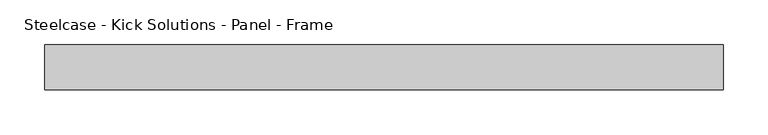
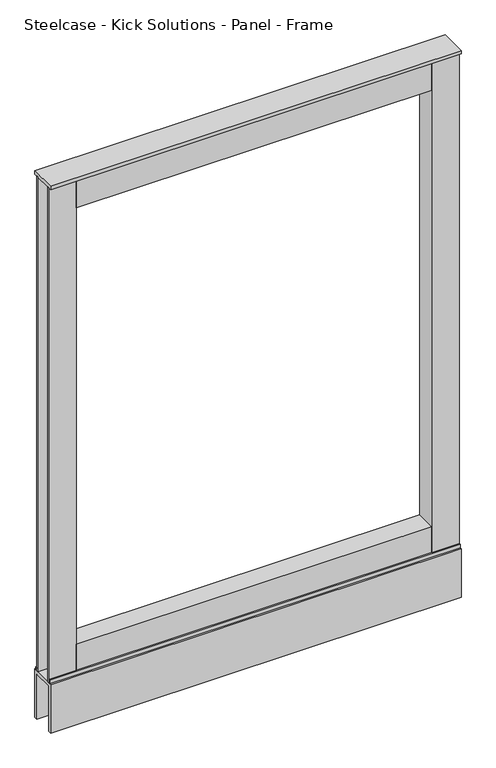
"""IFC4 building model written with IfcOpenShell, lengths in millimetres: furniture geometry, Steelcase - Kick Solutions - Panel - Frame : 42H x 30W."""

from ifc_helpers import new_model, si_unit, frame, origin, place, context, project, spatial, polyline, outline, extrude, source, transform, mapped, element, save


def steelcase_kick_solutions_panel_frame_ad9e5129(model_context):
    return source(origin(), model_context, "Body", "SweptSolid", [
        extrude(outline(polyline([(50.8006646, 6.3506854), (50.8006646, -31.7493123), (0.0, -31.7493123), (0.0, -29.2093123), (48.2606646, -29.2093123), (48.2606646, 3.8106854), (0.0, 3.8106854), (0.0, 6.3506854), (50.8006646, 6.3506854)])), frame((0.0, 0.0, 95.25), z_axis=(0.0, 0.0, 1.0), x_axis=(1.0, 0.0, 0.0)), (0.0, 0.0, 1.0), 971.55),
        extrude(outline(polyline([(711.2006661, 6.3506854), (762.0, 6.3506854), (762.0, 3.8106854), (713.7393354, 3.8106854), (713.7393354, -29.2093123), (762.0, -29.2093123), (762.0, -31.7493123), (711.2006661, -31.7493123), (711.2006661, 6.3506854)])), frame((0.0, 0.0, 95.25), z_axis=(0.0, 0.0, 1.0), x_axis=(1.0, 0.0, 0.0)), (0.0, 0.0, 1.0), 971.55),
        extrude(outline(polyline([(6.3506854, 101.600003), (9.5256855, 101.600003), (9.5256855, 95.25), (8.409661, 95.25), (8.409661, 100.2902081), (6.3506854, 100.2902081), (6.3506854, 101.600003)])), frame((0.0, 0.0, 0.0), z_axis=(1.0, 0.0, 0.0), x_axis=(0.0, 1.0, 0.0)), (0.0, 0.0, 1.0), 762.0),
        extrude(outline(polyline([(-34.9243138, 101.600003), (-31.7493123, 101.600003), (-31.7493123, 100.2902081), (-33.8479845, 100.2902081), (-33.8479845, 95.25), (-34.9243138, 95.25), (-34.9243138, 101.600003)])), frame((0.0, 0.0, 0.0), z_axis=(1.0, 0.0, 0.0), x_axis=(0.0, 1.0, 0.0)), (0.0, 0.0, 1.0), 762.0),
        extrude(outline(polyline([(711.2006661, -31.7493123), (50.8006646, -31.7493123), (50.8006646, 6.3506854), (711.2006661, 6.3506854), (711.2006661, -31.7493123)])), frame((0.0, 0.0, 1009.6500242), z_axis=(0.0, 0.0, 1.0), x_axis=(1.0, 0.0, 0.0)), (0.0, 0.0, 1.0), 57.1499758),
        extrude(outline(polyline([(711.2006661, -31.7493123), (50.8006646, -31.7493123), (50.8006646, 6.3506854), (711.2006661, 6.3506854), (711.2006661, -31.7493123)])), frame((0.0, 0.0, 95.25), z_axis=(0.0, 0.0, 1.0), x_axis=(1.0, 0.0, 0.0)), (0.0, 0.0, 1.0), 57.15),
        extrude(outline(polyline([(762.0, 12.7000004), (762.0, -38.1000011), (0.0, -38.1000011), (0.0, 12.7000004), (762.0, 12.7000004)])), frame((0.0, 0.0, 1066.8), z_axis=(0.0, 0.0, 1.0), x_axis=(1.0, 0.0, 0.0)), (0.0, 0.0, 1.0), 6.35),
        extrude(outline(polyline([(-38.1000011, 95.25), (12.7000004, 95.25), (12.7000004, 0.0), (6.3506854, 0.0), (6.3506854, 88.9), (-31.7493123, 88.9), (-31.7493123, 0.0), (-38.1000011, 0.0), (-38.1000011, 95.25)])), frame((0.0, 0.0, 0.0), z_axis=(1.0, 0.0, 0.0), x_axis=(0.0, 1.0, 0.0)), (0.0, 0.0, 1.0), 762.0),
    ])


if __name__ == "__main__":
    model = new_model("IFC4")
    model_context = context("Model", 3, world=origin())
    ifc_project = project(units=[si_unit("LENGTHUNIT", "METRE", prefix="MILLI")], contexts=[model_context])
    site = spatial("IfcSite", under=ifc_project)
    building = spatial("IfcBuilding", under=site)
    placement = place(None, origin())
    steelcase_kick_solutions_panel_frame_shape = steelcase_kick_solutions_panel_frame_ad9e5129(model_context)
    element("IfcFurniture", 1, ObjectType="Steelcase - Kick Solutions - Panel - Frame : 42H x 30W", at=placement, inside=building, context=model_context, shape_type="MappedRepresentation", body=[
        mapped(steelcase_kick_solutions_panel_frame_shape, transform((0.0, 0.0, 0.0), x_axis=(1.0, 0.0, 0.0), y_axis=(0.0, 1.0, 0.0), z_axis=(0.0, 0.0, 1.0))),
    ])
    save(model, "model.ifc")
